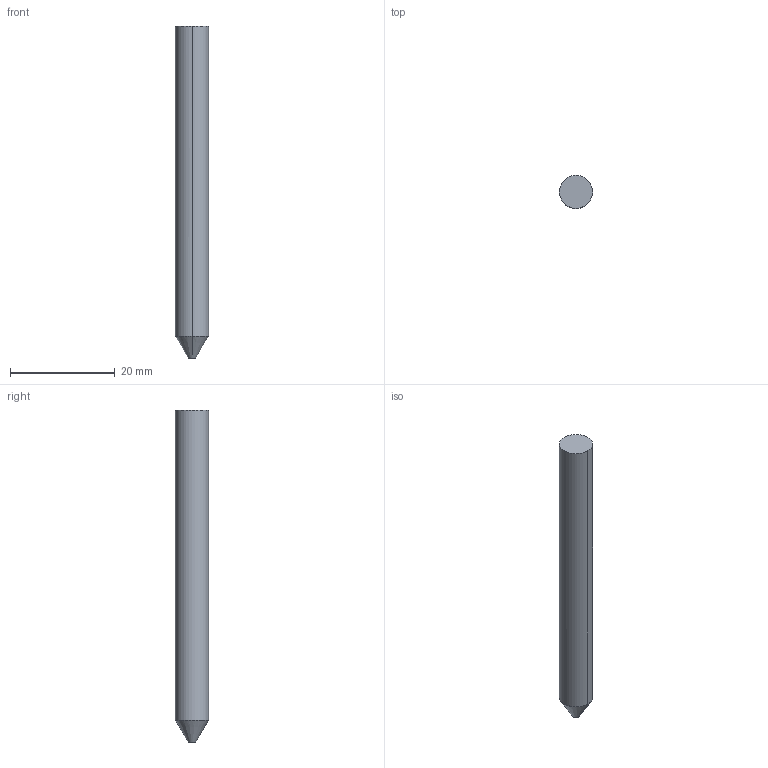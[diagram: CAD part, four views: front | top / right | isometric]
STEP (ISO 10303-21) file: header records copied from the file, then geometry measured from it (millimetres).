
FILE_DESCRIPTION((' '),'2;1');
FILE_NAME( '5HC025001B.stp', '2026-01-21T09:08:36', (' '), ('--- Datakit www.datakit.com---'), ' Datakit CrossCadWare V2025.4 Sep 19 2025', 'Mastercam 2027', ' ');
FILE_SCHEMA(('AUTOMOTIVE_DESIGN { 1 0 10303 214 1 1 1 1 }'));
Length unit declared in the file: inch
Products named in the file (1): 5HC025001B
Bounding box: 6.35 x 6.35 x 63.5 mm (x, y, z)
Volume: 1935.9 mm3; surface area: 1276.6 mm2
Topology: 1 solids, 1 shells, 8 faces, 16 edges, 10 vertices
Faces by surface type: cylinder 4, plane 2, cone 2
Entity records: 284 total; most frequent: DIRECTION 52, CARTESIAN_POINT 39, ORIENTED_EDGE 32, AXIS2_PLACEMENT_3D 23, EDGE_CURVE 16, VERTEX_POINT 10, CIRCLE 10, EDGE_LOOP 8
